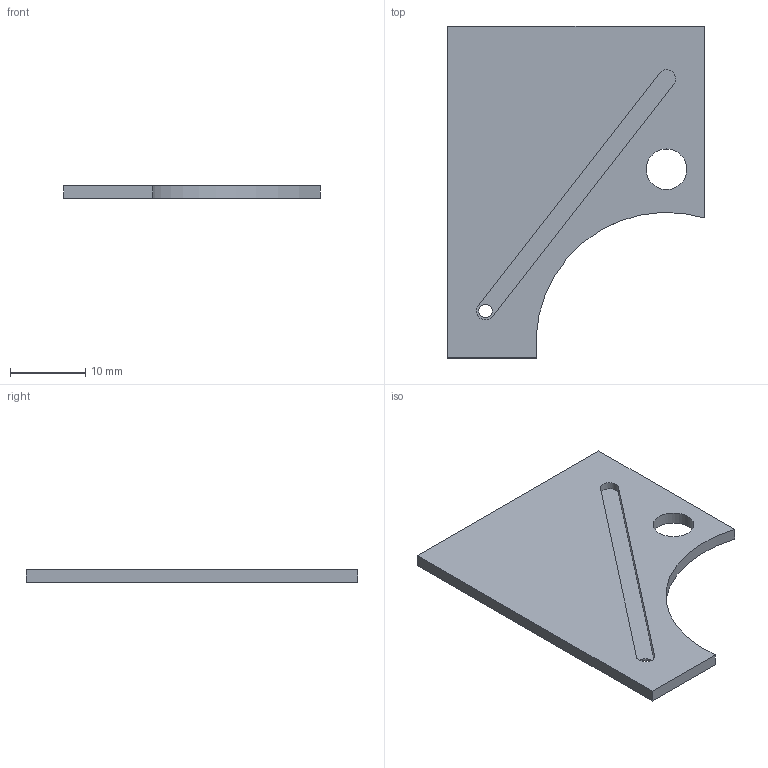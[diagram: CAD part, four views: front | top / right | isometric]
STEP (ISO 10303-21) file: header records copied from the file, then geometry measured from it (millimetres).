
FILE_DESCRIPTION(('Open CASCADE Model'),'2;1');
FILE_NAME('Open CASCADE Shape Model','2026-09-06T11:32:55',('Author'),( 'Open CASCADE'),'Open CASCADE STEP processor 7.7','Open CASCADE 7.7' ,'Unknown');
FILE_SCHEMA(('AUTOMOTIVE_DESIGN { 1 0 10303 214 1 1 1 1 }'));
Length unit declared in the file: millimetre
Products named in the file (1): Open CASCADE STEP translator 7.7 6
Bounding box: 34 x 44 x 1.6 mm (x, y, z)
Volume: 1664 mm3; surface area: 2571.4 mm2
Topology: 1 solids, 1 shells, 16 faces, 36 edges, 24 vertices
Faces by surface type: plane 10, cylinder 6
Full cylindrical faces by diameter (mm): 1.8 x1, 5.4 x1, 6.3 x1
Entity records: 939 total; most frequent: CARTESIAN_POINT 211, DIRECTION 127, ORIENTED_EDGE 72, PCURVE 72, DEFINITIONAL_REPRESENTATION 72, LINE 64, VECTOR 64, EDGE_CURVE 36
